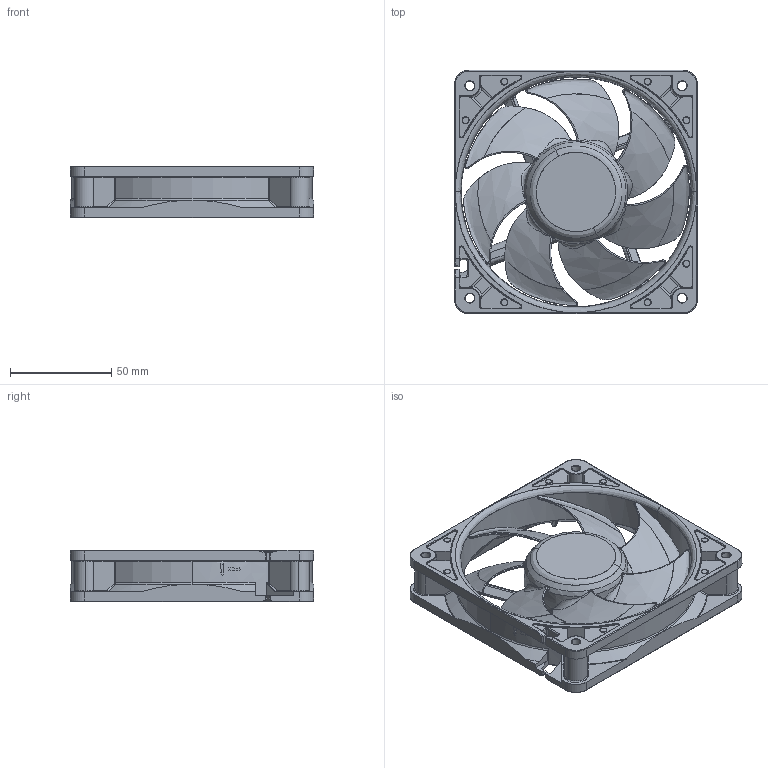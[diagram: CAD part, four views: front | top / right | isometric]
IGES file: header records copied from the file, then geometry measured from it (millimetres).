
Start section: SolidWorks IGES file using analytic representation for surfaces
Global section: file name: \\sdp0708as\Design 1\SDP-D Common Folder\3D data for customer\12025WPA_ribbed\RIBBED_120X25WPA.IGS; native system: SolidWorks 2022; preprocessor: SolidWorks 2022; author: Leslie-Culanding; date: 250115.145116; units: millimetre
Bounding box: 120 x 120 x 25.4 mm (x, y, z)
Surface area: 64905.4 mm2 (no closed solid volume)
Topology: 0 solids, 0 shells, 1218 faces, 11019 edges, 10958 vertices
Faces by surface type: bspline 776, revolution 442
